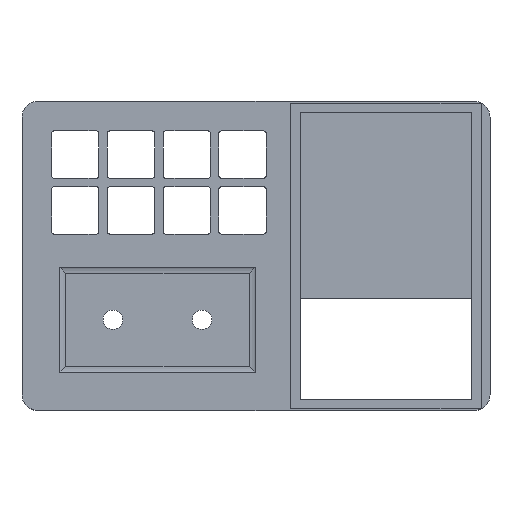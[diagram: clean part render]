
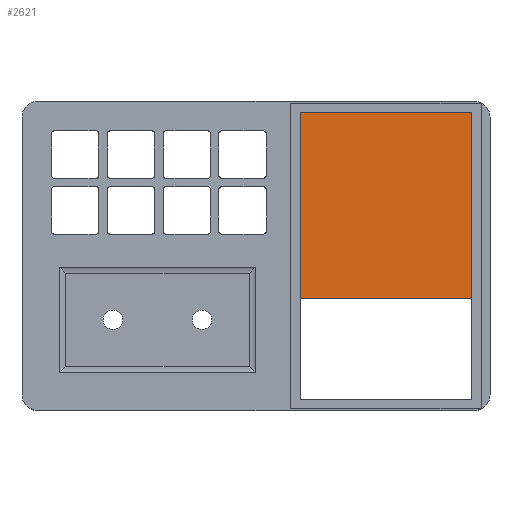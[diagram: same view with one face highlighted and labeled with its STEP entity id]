
A CAD part, top view. The second image highlights one B-rep face of the part: STEP entity #2621.
In plain terms, the highlighted planar face has unit normal (0, 0, 1).
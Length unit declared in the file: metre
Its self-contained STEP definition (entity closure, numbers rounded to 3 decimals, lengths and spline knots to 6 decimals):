
#740=ORIENTED_EDGE('',*,*,#1304,.T.);
#741=ORIENTED_EDGE('',*,*,#1151,.T.);
#742=ORIENTED_EDGE('',*,*,#1299,.F.);
#743=ORIENTED_EDGE('',*,*,#1302,.F.);
#1151=EDGE_CURVE('',#1526,#1525,#1697,.T.);
#1299=EDGE_CURVE('',#1571,#1525,#1825,.T.);
#1302=EDGE_CURVE('',#1572,#1571,#1828,.T.);
#1304=EDGE_CURVE('',#1572,#1526,#1830,.T.);
#1525=VERTEX_POINT('',#4147);
#1526=VERTEX_POINT('',#4149);
#1571=VERTEX_POINT('',#4411);
#1572=VERTEX_POINT('',#4416);
#1697=LINE('',#4148,#1950);
#1825=LINE('',#4412,#2078);
#1828=LINE('',#4417,#2081);
#1830=LINE('',#4420,#2083);
#1950=VECTOR('',#3264,1.);
#2078=VECTOR('',#3572,1.);
#2081=VECTOR('',#3577,1.);
#2083=VECTOR('',#3581,1.);
#2204=EDGE_LOOP('',(#740,#741,#742,#743));
#2389=FACE_BOUND('',#2204,.T.);
#2528=PLANE('',#2884);
#2621=ADVANCED_FACE('',(#2389),#2528,.T.);
#2884=AXIS2_PLACEMENT_3D('',#4421,#3582,#3583);
#3264=DIRECTION('',(1.,0.,0.));
#3572=DIRECTION('',(0.,-1.,0.));
#3577=DIRECTION('',(1.,0.,0.));
#3581=DIRECTION('',(0.,-1.,0.));
#3582=DIRECTION('',(0.,0.,1.));
#3583=DIRECTION('',(1.,0.,0.));
#4147=CARTESIAN_POINT('',(0.1111,-0.034075,0.0123));
#4148=CARTESIAN_POINT('',(0.109705,-0.034075,0.0123));
#4149=CARTESIAN_POINT('',(0.0495,-0.034075,0.0123));
#4411=CARTESIAN_POINT('',(0.1111,0.032475,0.0123));
#4412=CARTESIAN_POINT('',(0.1111,-0.0008,0.0123));
#4416=CARTESIAN_POINT('',(0.0495,0.032475,0.0123));
#4417=CARTESIAN_POINT('',(0.0803,0.032475,0.0123));
#4420=CARTESIAN_POINT('',(0.0495,-0.0008,0.0123));
#4421=CARTESIAN_POINT('',(0.0337,-0.018925,0.0123));
